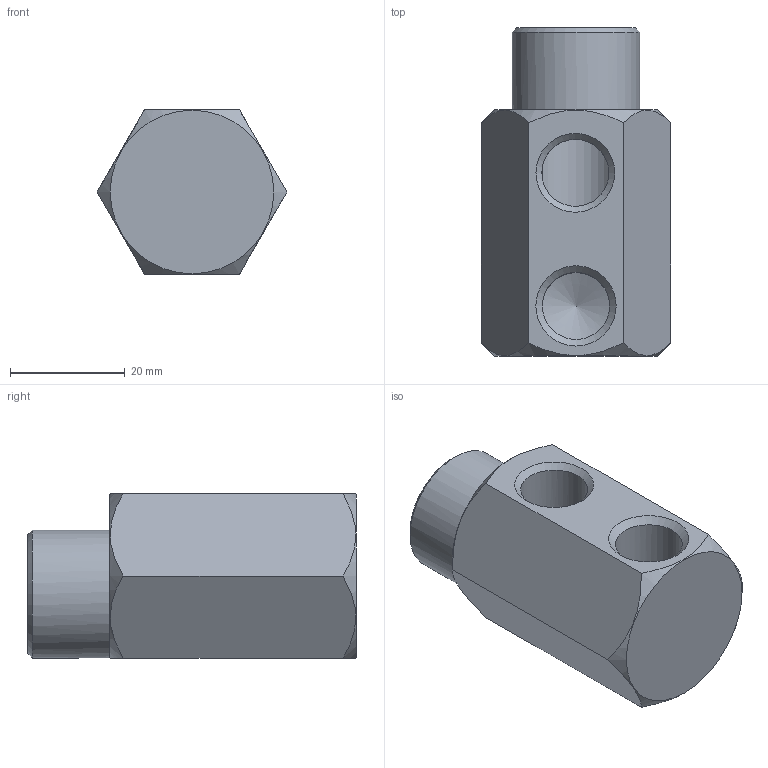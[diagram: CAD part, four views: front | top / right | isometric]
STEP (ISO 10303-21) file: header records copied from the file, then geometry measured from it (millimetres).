
FILE_DESCRIPTION(/* description */ (''),/* implementation_level */ '2;1');
FILE_NAME(/* name */ 'C:/Users/drich/Desktop/HF381H-4 v1.step',/* time_stamp */ '2019-11-18T13:49:45-06:00',/* author */ (''),/* organization */ (''),/* preprocessor_version */ 'ST-DEVELOPER v18',/* originating_system */ 'Autodesk Translation Framework v8.12.0.6',/* authorisation */ '');
FILE_SCHEMA (('AUTOMOTIVE_DESIGN { 1 0 10303 214 3 1 1 }'));
Length unit declared in the file: inch
Products named in the file (2): HF381H-4; HF381H-4_1
Assembly tree (1 placements, depth 2):
  HF381H-4
    HF381H-4_1
Bounding box: 33 x 57.12 x 28.57 mm (x, y, z)
Volume: 25524.3 mm3; surface area: 9151.4 mm2
Topology: 1 solids, 1 shells, 24 faces, 61 edges, 39 vertices
Faces by surface type: plane 10, cone 9, cylinder 5
Full cylindrical faces by diameter (mm): 8.509 x1, 11.668 x2, 15.173 x1, 22.225 x1
Entity records: 853 total; most frequent: CARTESIAN_POINT 236, ORIENTED_EDGE 120, DIRECTION 119, EDGE_CURVE 60, AXIS2_PLACEMENT_3D 50, VERTEX_POINT 39, EDGE_LOOP 29, FACE_OUTER_BOUND 24
